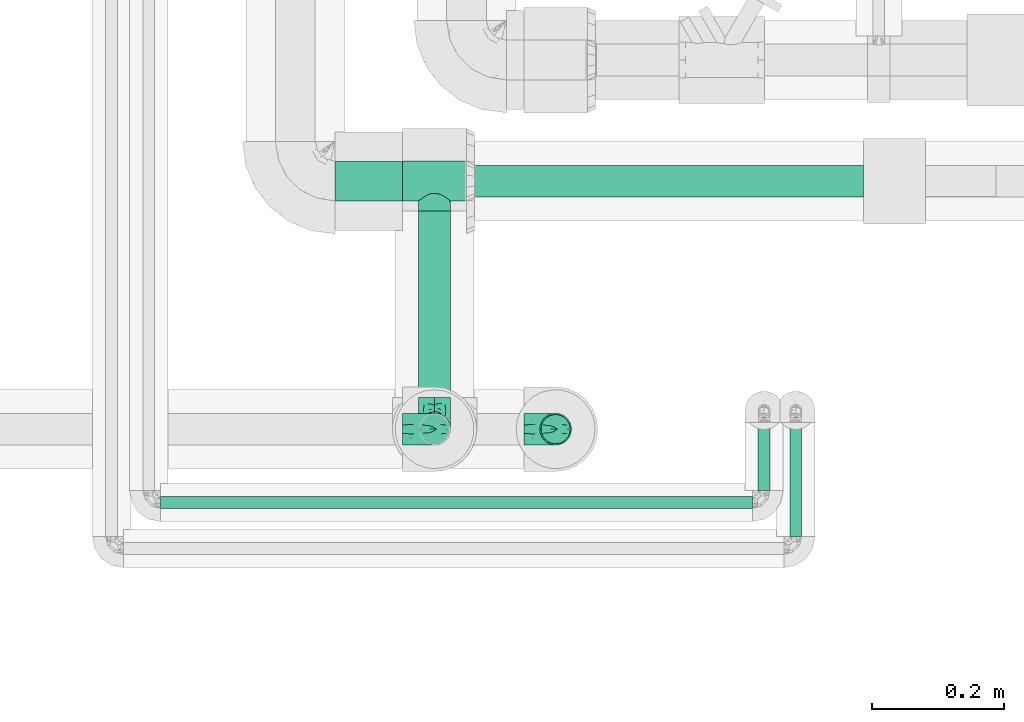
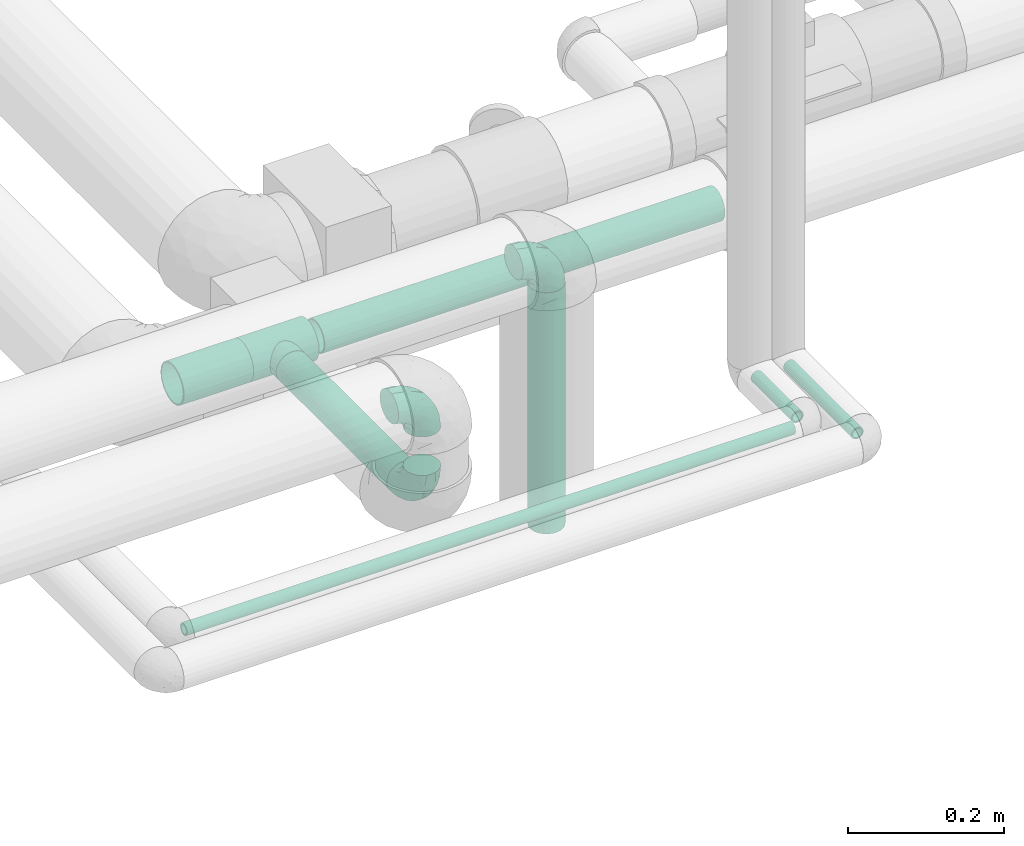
# One storey, part 37 of 83: 7 flow segments, 4 flow fittings.
"""IFC2X3 building model written with IfcOpenShell, lengths in millimetres."""

import ifcopenshell
import ifcopenshell.guid

model = None  # the IFC model being written
_history = None  # IfcOwnerHistory: only IFC2X3 demands one
_inside = {}  # id of a spatial element -> (the spatial element, [elements in it])
_under = {}  # id of a project, library or spatial element -> (it, [spatial elements below it])
_declared = {}  # id of a project -> (the project, [libraries it declares])
_typed = {}  # id of a type object -> (the type object, [elements of that type])
_made_of = {}  # id of a material, layer set ... -> (it, [elements and type objects made of it])


def new_model(schema):
    """Start an empty IFC model of exactly this schema.

    Asked for "IFC4X3", IfcOpenShell would pick the latest addendum, in which some entities
    have other attributes; the version numbers below select the first issue.
    IFC2X3 requires an IfcOwnerHistory on every rooted entity: one is made here for all.
    """
    global model, _history
    if schema == "IFC4X3":
        model = ifcopenshell.file(schema_version=(4, 3, 0, 0))
    else:
        model = ifcopenshell.file(schema=schema)
    _inside.clear()
    _under.clear()
    _declared.clear()
    _typed.clear()
    _made_of.clear()
    _history = None
    if model.schema == "IFC2X3":
        org = make("IfcOrganization", Name="unknown")
        user = make(
            "IfcPersonAndOrganization",
            ThePerson=make("IfcPerson", FamilyName="unknown"),
            TheOrganization=org,
        )
        app = make(
            "IfcApplication",
            ApplicationDeveloper=org,
            Version="unknown",
            ApplicationFullName="unknown",
            ApplicationIdentifier="unknown",
        )
        _history = make(
            "IfcOwnerHistory",
            OwningUser=user,
            OwningApplication=app,
            ChangeAction="ADDED",
            CreationDate=0,
        )
    return model


def make(cls, **values):
    """One entity of the class cls with the attributes given. An attribute that is None is left unset."""
    return model.create_entity(
        cls, **{name: value for name, value in values.items() if value is not None}
    )


def entity(cls, *values):
    """Any entity or typed value of the class cls, its attributes in the order of the schema. None: left unset."""
    e = model.create_entity(cls)
    for i, value in enumerate(values):
        if value is not None:
            e[i] = value
    return e


def rooted(cls, **values):
    """An entity with a GlobalId (a new one), such as an element, a storey or a relation."""
    return make(cls, GlobalId=ifcopenshell.guid.new(), OwnerHistory=_history, **values)


def si_unit(unit_type, name, prefix=None):
    """IfcSIUnit, for example si_unit("LENGTHUNIT", "METRE", prefix="MILLI")."""
    return make("IfcSIUnit", UnitType=unit_type, Prefix=prefix, Name=name)


def converted_unit(unit_type, name, factor, base, dimensions=None, offset=None):
    """IfcConversionBasedUnit, such as the inch: factor (a typed value) times the base unit."""
    return make(
        "IfcConversionBasedUnit"
        if offset is None
        else "IfcConversionBasedUnitWithOffset",
        ConversionOffset=offset,
        Dimensions=None
        if dimensions is None
        else entity("IfcDimensionalExponents", *dimensions),
        UnitType=unit_type,
        Name=name,
        ConversionFactor=make(
            "IfcMeasureWithUnit", ValueComponent=factor, UnitComponent=base
        ),
    )


def derived_unit(unit_type, elements):
    """IfcDerivedUnit: a product of units, each with its exponent."""
    return make(
        "IfcDerivedUnit",
        Elements=[
            make("IfcDerivedUnitElement", Unit=unit, Exponent=power)
            for unit, power in elements
        ],
        UnitType=unit_type,
    )


def assignment(units):
    """IfcUnitAssignment: the units of a project."""
    return None if units is None else make("IfcUnitAssignment", Units=units)


def point(xyz):
    """IfcCartesianPoint."""
    return None if xyz is None else make("IfcCartesianPoint", Coordinates=xyz)


def direction(xyz):
    """IfcDirection."""
    return None if xyz is None else make("IfcDirection", DirectionRatios=xyz)


def frame(location, z_axis=None, x_axis=None):
    """IfcAxis2Placement3D, a coordinate frame: its origin and axes. An axis left out is left unset."""
    return make(
        "IfcAxis2Placement3D",
        Location=point(location),
        Axis=direction(z_axis),
        RefDirection=direction(x_axis),
    )


def frame_2d(location, x_axis=None):
    """IfcAxis2Placement2D, a coordinate frame in the plane: its origin and x axis."""
    return make(
        "IfcAxis2Placement2D", Location=point(location), RefDirection=direction(x_axis)
    )


def origin_with_axes():
    """The frame at (0, 0, 0) with the z axis (0, 0, 1) and the x axis (1, 0, 0) written out."""
    return frame((0.0, 0.0, 0.0), z_axis=(0.0, 0.0, 1.0), x_axis=(1.0, 0.0, 0.0))


def origin_2d_with_axis():
    """The frame at (0, 0) in the plane with the x axis (1, 0) written out."""
    return frame_2d((0.0, 0.0), x_axis=(1.0, 0.0))


def place(relative_to, where):
    """IfcLocalPlacement: puts the frame where relative to a parent placement (None: the world)."""
    return make(
        "IfcLocalPlacement", PlacementRelTo=relative_to, RelativePlacement=where
    )


def context(
    kind, dimensions, precision=None, world=None, true_north=None, identifier=None
):
    """IfcGeometricRepresentationContext, for example the 3D "Model" context."""
    return make(
        "IfcGeometricRepresentationContext",
        ContextIdentifier=identifier,
        ContextType=kind,
        CoordinateSpaceDimension=dimensions,
        Precision=precision,
        WorldCoordinateSystem=world,
        TrueNorth=true_north,
    )


def subcontext(parent, identifier, kind, view, scale=None):
    """IfcGeometricRepresentationSubContext, for example "Body" below "Model"."""
    return make(
        "IfcGeometricRepresentationSubContext",
        ContextIdentifier=identifier,
        ContextType=kind,
        ParentContext=parent,
        TargetScale=scale,
        TargetView=view,
    )


def project(units=None, contexts=None):
    """IfcProject with its units and contexts."""
    return rooted(
        "IfcProject",
        Name="project",
        RepresentationContexts=contexts,
        UnitsInContext=assignment(units),
    )


def spatial(cls, under=None, at=None, **own):
    """A site, building, storey or space (cls), placed at a placement, below another one or the project."""
    s = rooted(cls, ObjectPlacement=at, **own)
    if under is not None:
        _under.setdefault(under.id(), (under, []))[1].append(s)
    return s


def profile(cls, at=None, kind="AREA", **sizes):
    """A parametric profile (cls). Its sizes go by their IFC names, for example OverallWidth=200.0."""
    return make(cls, ProfileType=kind, Position=at, **sizes)


def hollow_circle(**sizes):
    """IfcCircleHollowProfileDef."""
    return profile("IfcCircleHollowProfileDef", **sizes)


def extrude(swept, where, along, depth):
    """IfcExtrudedAreaSolid: the profile swept, set in the frame where, extruded along a direction by depth."""
    return make(
        "IfcExtrudedAreaSolid",
        SweptArea=swept,
        Position=where,
        ExtrudedDirection=direction(along),
        Depth=depth,
    )


def faces_of(points, faces, orient=None, outer=None):
    """IfcFace entities. A face is a list of loops; a loop is a list of indices into points, from 0.

    orient and outer hold one flag for each loop. By default every Orientation is true, the
    first loop of a face is its IfcFaceOuterBound and the others are IfcFaceBound.
    """
    made = []
    for i, loops in enumerate(faces):
        bounds = []
        for j, loop in enumerate(loops):
            is_outer = j == 0 if outer is None else outer[i][j]
            bounds.append(
                make(
                    "IfcFaceOuterBound" if is_outer else "IfcFaceBound",
                    Bound=make("IfcPolyLoop", Polygon=[points[k] for k in loop]),
                    Orientation=True if orient is None else orient[i][j],
                )
            )
        made.append(make("IfcFace", Bounds=bounds))
    return made


def open_shell(faces, orient=None, outer=None):
    """The faces of one IfcOpenShell. surface_model builds it on its shared points."""
    return ("IfcOpenShell", faces, orient, outer)


def surface_model(cls, points, shells):
    """IfcFaceBasedSurfaceModel or IfcShellBasedSurfaceModel (cls): surfaces that need not close."""
    shared = [point(p) for p in points]
    made = [make(c, CfsFaces=faces_of(shared, fs, o, b)) for c, fs, o, b in shells]
    if cls == "IfcFaceBasedSurfaceModel":
        return make(cls, FbsmFaces=made)
    return make(cls, SbsmBoundary=made)


def shape(context_of_items, identifier, shape_type, items):
    """IfcShapeRepresentation: the items that make up one representation, for example the "Body"."""
    return make(
        "IfcShapeRepresentation",
        ContextOfItems=context_of_items,
        RepresentationIdentifier=identifier,
        RepresentationType=shape_type,
        Items=items,
    )


def source(mapping_origin, context_of_items, identifier, shape_type, items):
    """IfcRepresentationMap: a shape defined once, which mapped items show again and again."""
    return make(
        "IfcRepresentationMap",
        MappingOrigin=mapping_origin,
        MappedRepresentation=shape(context_of_items, identifier, shape_type, items),
    )


def transform(
    local_origin,
    x_axis=None,
    y_axis=None,
    z_axis=None,
    scale=None,
    scale2=None,
    scale3=None,
    uniform=True,
):
    """IfcCartesianTransformationOperator3D, or its non-uniform kind. x_axis, y_axis, z_axis: its Axis1, 2, 3."""
    if uniform:
        return make(
            "IfcCartesianTransformationOperator3D",
            Axis1=direction(x_axis),
            Axis2=direction(y_axis),
            LocalOrigin=point(local_origin),
            Scale=scale,
            Axis3=direction(z_axis),
        )
    return make(
        "IfcCartesianTransformationOperator3DnonUniform",
        Axis1=direction(x_axis),
        Axis2=direction(y_axis),
        LocalOrigin=point(local_origin),
        Scale=scale,
        Axis3=direction(z_axis),
        Scale2=scale2,
        Scale3=scale3,
    )


def mapped(mapping_source, mapping_target):
    """IfcMappedItem: shows the shape of a source again, moved by a transform."""
    return make(
        "IfcMappedItem", MappingSource=mapping_source, MappingTarget=mapping_target
    )


def made_of(thing, what):
    """Note that an element or type object is made of a material, layer set ...; save() writes the relation."""
    if what is not None:
        _made_of.setdefault(what.id(), (what, []))[1].append(thing)
    return thing


def type_object(cls, material=None, **own):
    """A type object (cls), such as IfcWallType, which elements share."""
    return made_of(rooted(cls, **own), material)


def element(
    cls,
    number,
    at=None,
    inside=None,
    cuts=None,
    type_object=None,
    material=None,
    context=None,
    identifier="Body",
    shape_type=None,
    held_by="IfcProductDefinitionShape",
    body=None,
    shapes=None,
    **own,
):
    """One element of the class cls, such as IfcWall. Its Tag is "e" and its number.

    at: its placement. inside: the storey or other place that contains it. cuts: it is an
    opening in that element (IfcRelVoidsElement). A single representation is given by context,
    identifier, shape_type and body (its items); several are given by shapes. held_by: the class
    of the entity that holds the representations. save() writes the other relations.
    """
    e = rooted(cls, Tag="e%d" % number, ObjectPlacement=at, **own)
    if body is not None:
        shapes = [shape(context, identifier, shape_type, body)]
    if shapes is not None:
        e.Representation = make(held_by, Representations=shapes)
    if inside is not None:
        _inside.setdefault(inside.id(), (inside, []))[1].append(e)
    if cuts is not None:
        rooted(
            "IfcRelVoidsElement", RelatingBuildingElement=cuts, RelatedOpeningElement=e
        )
    if type_object is not None:
        _typed.setdefault(type_object.id(), (type_object, []))[1].append(e)
    return made_of(e, material)


def aggregate(whole, parts):
    """IfcRelAggregates: a whole, such as a stair, and the parts it consists of."""
    return rooted("IfcRelAggregates", RelatingObject=whole, RelatedObjects=parts)


def save(model, path):
    """Write the relations noted so far, then the file.

    IfcRelAggregates (storeys below a building ...), IfcRelContainedInSpatialStructure (elements
    in a storey), IfcRelDefinesByType, IfcRelAssociatesMaterial and IfcRelDeclares: one each for
    every whole, place, type object, material and project.
    """
    for whole, parts in _under.values():
        aggregate(whole, parts)
    for where, things in _inside.values():
        rooted(
            "IfcRelContainedInSpatialStructure",
            RelatedElements=things,
            RelatingStructure=where,
        )
    for kind, things in _typed.values():
        rooted("IfcRelDefinesByType", RelatedObjects=things, RelatingType=kind)
    for what, things in _made_of.values():
        rooted("IfcRelAssociatesMaterial", RelatedObjects=things, RelatingMaterial=what)
    for by, libraries in _declared.values():
        rooted("IfcRelDeclares", RelatingContext=by, RelatedDefinitions=libraries)
    model.write(path)


model = new_model("IFC2X3")

# Units and contexts
model_context = context("Model", 3, precision=0.01, world=frame((0.0, 4.29681676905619e-09, 0.0)), true_north=direction((4.01073788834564e-13, 1.0)))
plan_context = context("Plan", 3, precision=0.01, world=frame((0.0, 4.29681676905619e-09, 0.0)), true_north=direction((4.01073788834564e-13, 1.0)))
body_context = subcontext(model_context, "Body", "Model", "MODEL_VIEW")
ifc_project = project(units=[converted_unit("PLANEANGLEUNIT", "DEGREE", entity("IfcPositiveLengthMeasure", 0.0174532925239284), si_unit("PLANEANGLEUNIT", "RADIAN"), dimensions=[0, 0, 0, 0, 0, 0, 0]), si_unit("AREAUNIT", "SQUARE_METRE"), si_unit("LENGTHUNIT", "METRE", prefix="MILLI"), si_unit("MASSUNIT", "GRAM", prefix="KILO"), si_unit("POWERUNIT", "WATT"), si_unit("PRESSUREUNIT", "PASCAL"), si_unit("FORCEUNIT", "NEWTON", prefix="KILO"), si_unit("ELECTRICVOLTAGEUNIT", "VOLT"), si_unit("ELECTRICCURRENTUNIT", "AMPERE"), si_unit("THERMODYNAMICTEMPERATUREUNIT", "DEGREE_CELSIUS"), si_unit("TIMEUNIT", "SECOND"), si_unit("VOLUMEUNIT", "CUBIC_METRE"), derived_unit("LINEARVELOCITYUNIT", [(si_unit("LENGTHUNIT", "METRE"), 1), (si_unit("TIMEUNIT", "SECOND"), -1)]), derived_unit("VOLUMETRICFLOWRATEUNIT", [(si_unit("VOLUMEUNIT", "CUBIC_METRE"), 1), (si_unit("TIMEUNIT", "SECOND"), -1)]), derived_unit("THERMALTRANSMITTANCEUNIT", [(si_unit("POWERUNIT", "WATT"), 1), (si_unit("THERMODYNAMICTEMPERATUREUNIT", "KELVIN"), -1), (si_unit("AREAUNIT", "SQUARE_METRE"), -1)]), derived_unit("SOUNDPRESSUREUNIT", [(si_unit("PRESSUREUNIT", "PASCAL"), 1)])], contexts=[model_context, plan_context])

# Site, building, storey
site_placement = place(None, frame((0.0, -4.29681676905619e-09, 0.0), z_axis=(0.0, 0.0, 1.0), x_axis=(1.0, 0.0, 0.0)))
site = spatial("IfcSite", under=ifc_project, at=site_placement, Name="ENGM", CompositionType="ELEMENT")
building_placement = place(site_placement, frame((0.0, 4.29681676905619e-09, 0.0), z_axis=(0.0, 0.0, 1.0), x_axis=(1.0, 0.0, 0.0)))
building = spatial("IfcBuilding", under=site, at=building_placement, Name="TI", CompositionType="ELEMENT")
storey_placement = place(building_placement, frame((0.0, 0.0, 204000.0), z_axis=(0.0, 0.0, 1.0), x_axis=(1.0, 0.0, 0.0)))
storey = spatial("IfcBuildingStorey", under=building, at=storey_placement, Name="Nivå D", CompositionType="ELEMENT", Elevation=204000.0)

# Flow fittings
pipe_fitting_type_1 = type_object("IfcPipeFittingType", Name="magi_pipe_fe_elbow_short_001", PredefinedType="BEND")
shared_shape_1 = source(origin_with_axes(), body_context, "Body", "SurfaceModel", [
    surface_model("IfcShellBasedSurfaceModel", [(-48.4, 6.26342, -23.37541), (-48.4, 0.0, -24.2), (-48.4, 17.11198, -17.11198), (-48.4, 12.1, -20.95781), (-48.4, 23.37541, -6.26342), (-48.4, 20.95781, -12.1), (-48.4, -12.1, -20.95781), (-48.4, -17.11198, -17.11198), (-48.4, -20.95781, -12.1), (-48.4, -6.26342, -23.37541), (-48.4, -23.37541, -6.26342), (-48.4, -24.2, 0.0), (-48.4, -23.37541, 6.26342), (-48.4, 23.37541, 6.26342), (-48.4, 6.26342, 23.37541), (-48.4, 20.95781, 12.1), (-48.4, 17.11198, 17.11198), (-48.4, 12.1, 20.95781), (-48.4, -12.1, 20.95781), (-48.4, -20.95781, 12.1), (-48.4, -17.11198, 17.11198), (-48.4, -6.26342, 23.37541), (-48.4, 0.0, 24.2), (-48.4, 24.2, 0.0), (-17.11198, 48.4, -17.11198), (0.0, 48.4, -24.2), (-6.26342, 48.4, -23.37541), (-12.1, 48.4, -20.95781), (-20.95781, 48.4, -12.1), (-23.37541, 48.4, -6.26342), (12.1, 48.4, -20.95781), (20.95781, 48.4, -12.1), (17.11198, 48.4, -17.11198), (6.26342, 48.4, -23.37541), (23.37541, 48.4, -6.26342), (23.37541, 48.4, 6.26342), (24.2, 48.4, 0.0), (-23.37541, 48.4, 6.26342), (-6.26342, 48.4, 23.37541), (-17.11198, 48.4, 17.11198), (-20.95781, 48.4, 12.1), (-12.1, 48.4, 20.95781), (12.1, 48.4, 20.95781), (17.11198, 48.4, 17.11198), (20.95781, 48.4, 12.1), (0.0, 48.4, 24.2), (6.26342, 48.4, 23.37541), (-24.2, 48.4, 0.0), (-35.50368, -18.80076, 13.58523), (-31.77913, -13.9618, 18.03279), (-34.50859, -21.43683, 0.0), (-21.39243, -15.41147, 12.21413), (-32.16301, -21.12203, 7.54749), (21.12203, 32.16301, 7.54749), (17.07617, 18.95745, 6.20374), (18.67365, 20.61718, 0.0), (-23.65565, 38.62451, 10.51816), (-20.21592, 37.67665, 15.89859), (-35.56981, -9.15108, 21.77256), (-36.96985, -3.20584, 23.78612), (-33.88786, 3.70953, 24.15875), (-8.84062, -10.8048, 0.0), (-18.95745, -17.07617, 6.20374), (-20.61718, -18.67365, 0.0), (-18.69715, -5.87343, 20.10488), (-24.09336, -0.21717, 23.45593), (-2.08262, -4.09091, 10.90396), (-0.40561, 0.49936, 14.45569), (-8.22634, -5.79523, 14.90978), (-37.83027, 20.17367, 15.88169), (-8.41063, 23.79825, 24.15658), (-17.92529, 17.92529, 23.61199), (-14.40991, 10.5752, 24.07534), (-41.86919, 14.6551, 19.71874), (-9.03342, 41.7434, 22.66763), (-3.31671, 36.19978, 24.14056), (-38.63654, 23.65174, 10.51655), (-38.25939, 25.77657, 5.32075), (-30.0475, 30.0475, 9.04616), (-37.30448, 9.49113, 22.86036), (-6.31688, 16.20853, 23.76192), (-12.02449, 4.43954, 22.59792), (-2.47225, 13.07459, 22.23951), (-4.32281, 4.32281, 19.78555), (13.9618, 31.77913, 18.03279), (15.41147, 21.39243, 12.21413), (18.80076, 35.50367, 13.58523), (-25.72741, 16.42033, 22.38358), (-26.59277, 10.36599, 23.76692), (3.20584, 36.96985, 23.78612), (9.15107, 35.56981, 21.77256), (5.87343, 18.69715, 20.10488), (21.43683, 34.50859, 0.0), (-23.74657, 5.93004, 24.18967), (-22.40302, 25.55556, 19.88516), (-33.3245, 16.42738, 20.3789), (-25.47357, 39.04012, 5.19167), (-30.32947, 31.74105, 4.25904), (11.04589, 19.60124, 16.55181), (-27.44219, 36.3, 0.0), (-10.46605, 32.79159, 23.04712), (-13.80953, 25.05111, 23.26361), (-17.54489, 31.27863, 20.33941), (-19.27982, 23.42922, 22.01925), (-14.78447, 40.57947, 19.81913), (-19.60124, -11.04589, 16.55181), (-25.09785, 32.07921, 13.69695), (-25.5093, 27.02629, 17.14196), (-31.08127, 26.00324, 13.49448), (0.21717, 24.09336, 23.45593), (5.51075, 8.40547, 15.32867), (-11.48597, -10.80284, 11.35932), (1.43689, -3.14326, 6.54995), (7.34882, 4.31024, 8.4514), (7.50574, 2.51208, 3.62663), (12.46453, 10.09451, 5.71609), (12.1504, 12.55391, 10.15678), (-36.3, 27.44219, 0.0), (-6.52237, -9.62364, 7.02633), (2.93595, -2.93595, 0.0), (10.8048, 8.84062, 0.0), (-19.60124, -11.04589, -16.55181), (-31.77913, -13.9618, -18.03279), (-18.69715, -5.87343, -20.10488), (-21.39243, -15.41147, -12.21413), (-37.67665, 20.21591, -15.89859), (-40.57947, 14.78447, -19.81913), (-39.04012, 25.47357, -5.19167), (-32.16301, -21.12203, -7.54749), (-30.0475, 30.0475, -9.04616), (-38.62452, 23.65565, -10.51816), (-18.95745, -17.07617, -6.20374), (-23.42922, 19.27982, -22.01926), (-25.05111, 13.80953, -23.26361), (-31.27863, 17.54489, -20.33941), (-14.6551, 41.86919, -19.71874), (-20.17367, 37.83026, -15.88169), (9.15108, 35.56981, -21.77256), (5.87343, 18.69715, -20.10488), (0.21717, 24.09336, -23.45593), (-41.7434, 9.03342, -22.66763), (-35.50368, -18.80076, -13.58523), (-35.56981, -9.15108, -21.77256), (-16.42033, 25.72741, -22.38358), (-9.49113, 37.30447, -22.86036), (-10.36599, 26.59277, -23.76692), (-36.96985, -3.20584, -23.78612), (-23.79826, 8.41063, -24.15658), (-17.92529, 17.92529, -23.61199), (-10.5752, 14.40991, -24.07534), (-36.19978, 3.31671, -24.14056), (-25.77657, 38.25939, -5.32075), (-23.65174, 38.63654, -10.51655), (-32.79159, 10.46605, -23.04712), (-31.74105, 30.32946, -4.25904), (-5.93004, 23.74657, -24.18967), (-25.55556, 22.40302, -19.88516), (-16.42738, 33.3245, -20.3789), (3.20584, 36.96985, -23.78612), (-3.70953, 33.88785, -24.15875), (18.80076, 35.50367, -13.58523), (13.9618, 31.77913, -18.03279), (7.50574, 2.51208, -3.62663), (12.46453, 10.09451, -5.71609), (-16.20853, 6.31688, -23.76192), (-4.43954, 12.02449, -22.59792), (-13.07459, 2.47225, -22.23951), (1.43689, -3.14326, -6.54995), (-6.52237, -9.62364, -7.02632), (-2.08262, -4.09091, -10.90396), (15.41147, 21.39243, -12.21413), (21.12203, 32.16301, -7.54749), (17.07617, 18.95745, -6.20374), (-32.07921, 25.09785, -13.69695), (11.04589, 19.60124, -16.55181), (12.1504, 12.55391, -10.15678), (5.51075, 8.40547, -15.32867), (-27.02629, 25.5093, -17.14196), (-26.00324, 31.08127, -13.49448), (-24.09336, -0.21717, -23.45593), (-4.32281, 4.32281, -19.78555), (-8.22634, -5.79524, -14.90978), (-11.48597, -10.80284, -11.35931), (-0.40561, 0.49936, -14.45569), (7.34882, 4.31024, -8.4514)], [open_shell([[[0, 1, 2]], [[3, 0, 2]], [[4, 5, 2]], [[6, 2, 1]], [[4, 2, 6]], [[7, 8, 6]], [[1, 9, 6]], [[8, 10, 6]], [[6, 10, 4]], [[11, 12, 10]], [[13, 4, 10]], [[14, 13, 10]], [[15, 13, 16]], [[13, 14, 17]], [[16, 13, 17]], [[10, 18, 14]], [[19, 20, 12]], [[20, 10, 12]], [[21, 22, 18]], [[20, 18, 10]], [[18, 22, 14]], [[23, 4, 13]], [[24, 25, 26]], [[24, 26, 27]], [[24, 28, 29]], [[25, 24, 30]], [[30, 24, 29]], [[30, 31, 32]], [[30, 33, 25]], [[30, 34, 31]], [[29, 34, 30]], [[34, 35, 36]], [[34, 29, 37]], [[34, 37, 38]], [[39, 37, 40]], [[41, 38, 37]], [[41, 37, 39]], [[38, 42, 34]], [[35, 43, 44]], [[35, 34, 43]], [[42, 45, 46]], [[34, 42, 43]], [[38, 45, 42]], [[37, 29, 47]], [[20, 48, 49]], [[12, 11, 50]], [[51, 48, 52]], [[53, 54, 55]], [[48, 20, 19]], [[12, 52, 19]], [[40, 56, 57]], [[49, 18, 20]], [[49, 58, 18]], [[22, 59, 60]], [[61, 62, 63]], [[58, 64, 65]], [[66, 67, 68]], [[15, 16, 69]], [[70, 71, 72]], [[17, 73, 16]], [[21, 59, 22]], [[38, 74, 75]], [[22, 60, 14]], [[15, 69, 76]], [[16, 73, 69]], [[23, 13, 77]], [[13, 15, 76]], [[77, 76, 78]], [[14, 79, 17]], [[80, 81, 82]], [[68, 83, 64]], [[84, 43, 42]], [[85, 86, 84]], [[87, 79, 88]], [[18, 58, 21]], [[45, 89, 46]], [[53, 35, 44]], [[45, 38, 75]], [[84, 90, 91]], [[44, 86, 53]], [[92, 35, 53]], [[86, 44, 43]], [[90, 42, 46]], [[53, 55, 92]], [[88, 93, 72]], [[54, 53, 85]], [[87, 94, 95]], [[78, 96, 97]], [[98, 84, 91]], [[99, 96, 47]], [[79, 14, 60]], [[96, 78, 56]], [[62, 52, 63]], [[57, 39, 40]], [[100, 70, 75]], [[101, 102, 103]], [[12, 50, 52]], [[104, 41, 39]], [[74, 38, 41]], [[57, 102, 104]], [[105, 64, 49]], [[90, 84, 42]], [[40, 37, 56]], [[56, 106, 57]], [[102, 57, 107]], [[95, 107, 69]], [[76, 108, 78]], [[100, 101, 70]], [[89, 75, 109]], [[64, 58, 49]], [[63, 52, 50]], [[59, 58, 65]], [[105, 49, 51]], [[64, 83, 81]], [[89, 90, 46]], [[36, 35, 92]], [[109, 82, 91]], [[109, 91, 90]], [[91, 83, 110]], [[111, 68, 105]], [[66, 68, 111]], [[62, 51, 52]], [[66, 112, 113]], [[114, 115, 113]], [[98, 85, 84]], [[52, 48, 19]], [[49, 48, 51]], [[84, 86, 43]], [[53, 86, 85]], [[88, 79, 60]], [[73, 79, 95]], [[96, 56, 37]], [[78, 108, 106]], [[87, 103, 94]], [[100, 74, 104]], [[108, 69, 107]], [[78, 97, 77]], [[88, 72, 71]], [[109, 75, 70]], [[81, 72, 65]], [[70, 72, 80]], [[75, 89, 45]], [[90, 89, 109]], [[58, 59, 21]], [[60, 59, 65]], [[67, 83, 68]], [[110, 113, 116]], [[88, 60, 93]], [[87, 88, 71]], [[103, 87, 71]], [[79, 87, 95]], [[101, 103, 71]], [[94, 103, 102]], [[47, 96, 37]], [[96, 99, 97]], [[99, 117, 97]], [[97, 117, 77]], [[23, 77, 117]], [[13, 76, 77]], [[60, 65, 93]], [[65, 72, 93]], [[70, 101, 71]], [[102, 101, 100]], [[69, 108, 76]], [[106, 108, 107]], [[57, 106, 107]], [[78, 106, 56]], [[57, 104, 39]], [[100, 104, 102]], [[102, 107, 94]], [[95, 94, 107]], [[64, 81, 65]], [[82, 81, 83]], [[91, 82, 83]], [[80, 82, 109]], [[70, 80, 109]], [[81, 80, 72]], [[79, 73, 17]], [[69, 73, 95]], [[104, 74, 41]], [[75, 74, 100]], [[62, 61, 118]], [[111, 62, 118]], [[113, 115, 116]], [[119, 118, 61]], [[111, 105, 51]], [[113, 112, 114]], [[120, 55, 54]], [[68, 64, 105]], [[91, 110, 98]], [[116, 98, 110]], [[62, 111, 51]], [[66, 111, 118]], [[112, 66, 118]], [[67, 113, 110]], [[118, 119, 112]], [[114, 112, 119]], [[119, 120, 114]], [[115, 120, 54]], [[120, 115, 114]], [[116, 54, 85]], [[54, 116, 115]], [[116, 85, 98]], [[113, 67, 66]], [[83, 67, 110]], [[121, 122, 123]], [[122, 121, 124]], [[5, 125, 2]], [[2, 126, 3]], [[117, 127, 23]], [[50, 10, 128]], [[127, 129, 130]], [[128, 131, 63]], [[132, 133, 134]], [[24, 135, 136]], [[137, 138, 139]], [[3, 140, 0]], [[128, 8, 141]], [[142, 6, 9]], [[128, 63, 50]], [[5, 4, 130]], [[8, 7, 141]], [[143, 144, 145]], [[146, 9, 1]], [[147, 148, 149]], [[8, 128, 10]], [[124, 141, 122]], [[150, 1, 0]], [[151, 152, 129]], [[125, 134, 126]], [[153, 147, 150]], [[127, 154, 129]], [[145, 155, 149]], [[47, 29, 151]], [[143, 156, 157]], [[152, 29, 28]], [[25, 158, 159]], [[122, 7, 6]], [[24, 27, 135]], [[144, 27, 26]], [[32, 160, 161]], [[25, 33, 158]], [[120, 162, 163]], [[130, 125, 5]], [[24, 136, 28]], [[0, 140, 150]], [[30, 161, 137]], [[142, 122, 6]], [[25, 159, 26]], [[164, 165, 166]], [[167, 168, 169]], [[31, 160, 32]], [[161, 30, 32]], [[170, 160, 171]], [[131, 128, 124]], [[36, 92, 34]], [[34, 92, 171]], [[172, 171, 55]], [[34, 171, 31]], [[144, 26, 159]], [[130, 173, 125]], [[174, 175, 176]], [[136, 152, 28]], [[30, 137, 33]], [[122, 142, 123]], [[134, 125, 177]], [[157, 177, 136]], [[152, 178, 129]], [[153, 133, 147]], [[146, 150, 179]], [[146, 142, 9]], [[11, 10, 50]], [[179, 166, 123]], [[179, 123, 142]], [[123, 180, 181]], [[138, 137, 161]], [[55, 171, 92]], [[158, 137, 139]], [[174, 161, 170]], [[138, 180, 165]], [[180, 138, 176]], [[124, 121, 182]], [[176, 183, 180]], [[61, 131, 168]], [[169, 168, 182]], [[172, 170, 171]], [[122, 141, 7]], [[128, 141, 124]], [[171, 160, 31]], [[161, 160, 170]], [[145, 144, 159]], [[135, 144, 157]], [[127, 130, 4]], [[129, 178, 173]], [[143, 132, 156]], [[153, 140, 126]], [[178, 136, 177]], [[129, 154, 151]], [[145, 149, 148]], [[179, 150, 147]], [[165, 149, 139]], [[147, 149, 164]], [[150, 146, 1]], [[142, 146, 179]], [[137, 158, 33]], [[159, 158, 139]], [[174, 138, 161]], [[184, 169, 183]], [[145, 159, 155]], [[143, 145, 148]], [[132, 143, 148]], [[144, 143, 157]], [[133, 132, 148]], [[156, 132, 134]], [[23, 127, 4]], [[127, 117, 154]], [[117, 99, 154]], [[154, 99, 151]], [[47, 151, 99]], [[29, 152, 151]], [[159, 139, 155]], [[139, 149, 155]], [[147, 133, 148]], [[134, 133, 153]], [[136, 178, 152]], [[173, 178, 177]], [[125, 173, 177]], [[129, 173, 130]], [[125, 126, 2]], [[153, 126, 134]], [[134, 177, 156]], [[157, 156, 177]], [[138, 165, 139]], [[166, 165, 180]], [[123, 166, 180]], [[164, 166, 179]], [[147, 164, 179]], [[165, 164, 149]], [[144, 135, 27]], [[136, 135, 157]], [[126, 140, 3]], [[150, 140, 153]], [[182, 131, 124]], [[168, 119, 61]], [[119, 167, 162]], [[63, 131, 61]], [[172, 163, 175]], [[172, 55, 120]], [[123, 181, 121]], [[182, 121, 181]], [[175, 174, 170]], [[176, 138, 174]], [[169, 182, 181]], [[131, 182, 168]], [[183, 169, 181]], [[167, 169, 184]], [[162, 167, 184]], [[119, 168, 167]], [[163, 162, 184]], [[120, 119, 162]], [[175, 163, 184]], [[120, 163, 172]], [[176, 175, 184]], [[172, 175, 170]], [[180, 183, 181]], [[184, 183, 176]]])]),
])
for number, where, z_axis, x_axis, name in (
    (1, (608568.77351, 697531.0, 5915.24411), (-1.0, 0.0, 0.0), (0.0, -1.0, 0.0), "magi_pipe_fe_elbow_short_001"),
    (2, (608568.77351, 697531.0, 6072.06187000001), (0.0, -1.0, 0.0), (0.0, 0.0, 1.0), "magi_pipe_fe_elbow_short_001"),
    (3, (608752.77351, 697531.0, 6233.10000000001), (0.0, -1.0, 0.0), (0.0, 0.0, 1.0), "magi_pipe_fe_elbow_short_001"),
):
    element("IfcFlowFitting", number, at=place(storey_placement, frame(where, z_axis=z_axis, x_axis=x_axis)), inside=storey, type_object=pipe_fitting_type_1, Name=name, context=body_context, shape_type="MappedRepresentation", body=[
        mapped(shared_shape_1, transform((0.0, 0.0, 0.0), scale=1.0)),
    ])
pipe_fitting_type_2 = type_object("IfcPipeFittingType", Name="magi_pipe_fe_tee_centric_90_NOR", PredefinedType="JUNCTION")
shared_shape_2 = source(origin_with_axes(), body_context, "Body", "SurfaceModel", [
    surface_model("IfcShellBasedSurfaceModel", [(-48.4, 15.1, -26.15397), (-48.4, 7.81634, -29.17096), (-48.4, 0.0, -30.2), (-48.4, 29.17096, -7.81634), (-48.4, 26.15397, -15.1), (-48.4, 21.35462, -21.35462), (-48.4, 30.2, 0.0), (-48.4, -30.2, 0.0), (-48.4, -15.1, -26.15397), (-48.4, -21.35462, -21.35462), (-48.4, -7.81634, -29.17096), (-48.4, -26.15397, -15.1), (-48.4, -29.17096, -7.81634), (-48.4, 26.15397, 15.1), (-48.4, 29.17096, 7.81634), (-48.4, 15.1, 26.15397), (-48.4, -21.35462, 21.35462), (-48.4, 21.35462, 21.35462), (-48.4, 7.81634, 29.17096), (-48.4, -29.17096, 7.81634), (-48.4, -26.15397, 15.1), (-48.4, -15.1, 26.15397), (-48.4, -7.81634, 29.17096), (-48.4, 0.0, 30.2), (48.4, 0.0, -30.2), (48.4, 7.81634, -29.17096), (48.4, 15.1, -26.15397), (48.4, 21.35462, -21.35462), (48.4, -7.81634, -29.17096), (48.4, 26.15397, -15.1), (48.4, 29.17096, -7.81634), (48.4, -21.35462, -21.35462), (48.4, -15.1, -26.15397), (48.4, -29.17096, -7.81634), (48.4, -26.15397, -15.1), (48.4, -30.2, 0.0), (48.4, 30.2, 0.0), (48.4, 29.17096, 7.81634), (48.4, 26.15397, 15.1), (48.4, -29.17096, 7.81634), (48.4, 15.1, 26.15397), (48.4, 7.81634, 29.17096), (48.4, 21.35462, 21.35462), (48.4, -21.35462, 21.35462), (48.4, -26.15397, 15.1), (48.4, -15.1, 26.15397), (48.4, 0.0, 30.2), (48.4, -7.81634, 29.17096), (24.2, -30.2, 0.0), (22.60269, -28.93582, 8.64629), (18.34349, -25.74653, 15.78469), (12.2058, -21.80325, 20.89638), (4.41265, -18.59762, 23.7943), (-24.2, -30.2, 0.0), (-22.60359, -28.93652, 8.64395), (-12.20756, -21.80423, 20.89535), (-4.42042, -18.59947, 23.79285), (-18.34713, -25.74912, 15.78045), (4.41265, -18.59762, -23.7943), (18.34349, -25.74653, -15.78469), (12.2058, -21.80325, -20.89638), (22.60269, -28.93582, -8.64629), (-4.42042, -18.59947, -23.79285), (-12.20756, -21.80423, -20.89535), (-18.34713, -25.74912, -15.78045), (-22.60359, -28.93652, -8.64395), (0.0, -45.3, -24.2), (6.26342, -45.3, -23.37541), (12.1, -45.3, -20.95781), (12.1, -45.3, 20.95781), (17.11198, -45.3, -17.11198), (20.95781, -45.3, -12.1), (23.37541, -45.3, -6.26342), (-12.1, -45.3, -20.95781), (-20.95781, -45.3, -12.1), (-17.11198, -45.3, -17.11198), (-6.26342, -45.3, -23.37541), (-23.37541, -45.3, -6.26342), (-24.2, -45.3, 0.0), (24.2, -45.3, 0.0), (23.37541, -45.3, 6.26342), (20.95781, -45.3, 12.1), (-23.37541, -45.3, 6.26342), (17.11198, -45.3, 17.11198), (6.26342, -45.3, 23.37541), (-17.11198, -45.3, 17.11198), (-20.95781, -45.3, 12.1), (-12.1, -45.3, 20.95781), (0.0, -45.3, 24.2), (-6.26342, -45.3, 23.37541), (-23.40179, -29.56826, 4.32197), (-0.00389, -18.59854, 23.79357), (23.40135, -29.56791, 4.32314), (23.40135, -29.56791, -4.32314), (-0.00389, -18.59854, -23.79357), (-23.40179, -29.56826, -4.32197)], [open_shell([[[0, 1, 2]], [[3, 0, 2]], [[0, 3, 4]], [[5, 0, 4]], [[6, 2, 7]], [[8, 9, 10]], [[9, 2, 10]], [[11, 12, 9]], [[7, 9, 12]], [[9, 7, 2]], [[6, 3, 2]], [[13, 14, 6]], [[7, 15, 13]], [[7, 16, 15]], [[17, 13, 15]], [[18, 15, 16]], [[19, 20, 7]], [[7, 20, 16]], [[21, 22, 16]], [[23, 16, 22]], [[16, 23, 18]], [[7, 13, 6]], [[24, 25, 26]], [[24, 26, 27]], [[28, 27, 29]], [[27, 28, 24]], [[28, 29, 30]], [[28, 31, 32]], [[31, 28, 33]], [[31, 33, 34]], [[33, 28, 35]], [[28, 30, 35]], [[30, 36, 35]], [[36, 37, 38]], [[39, 36, 38]], [[40, 41, 38]], [[40, 38, 42]], [[43, 38, 41]], [[39, 43, 44]], [[39, 38, 43]], [[45, 46, 47]], [[46, 45, 43]], [[41, 46, 43]], [[36, 39, 35]], [[35, 39, 48]], [[49, 48, 39]], [[39, 44, 49]], [[44, 43, 50]], [[51, 50, 43]], [[52, 51, 43]], [[43, 45, 52]], [[44, 50, 49]], [[53, 54, 19]], [[19, 7, 53]], [[54, 20, 19]], [[55, 56, 16]], [[20, 57, 16]], [[57, 20, 54]], [[16, 57, 55]], [[56, 21, 16]], [[52, 21, 56]], [[23, 47, 46]], [[22, 45, 47]], [[18, 46, 41]], [[38, 37, 14]], [[17, 40, 42]], [[13, 42, 38]], [[41, 40, 15]], [[6, 37, 36]], [[21, 45, 22]], [[22, 47, 23]], [[18, 23, 46]], [[41, 15, 18]], [[15, 40, 17]], [[13, 17, 42]], [[14, 13, 38]], [[37, 6, 14]], [[45, 21, 52]], [[4, 30, 29]], [[3, 36, 30]], [[5, 29, 27]], [[24, 28, 10]], [[1, 26, 25]], [[2, 25, 24]], [[27, 26, 0]], [[8, 28, 32]], [[6, 36, 3]], [[3, 30, 4]], [[5, 4, 29]], [[27, 0, 5]], [[0, 26, 1]], [[2, 1, 25]], [[10, 2, 24]], [[28, 8, 10]], [[32, 58, 8]], [[31, 59, 60]], [[59, 31, 34]], [[60, 58, 31]], [[31, 58, 32]], [[33, 35, 48]], [[33, 61, 34]], [[61, 33, 48]], [[34, 61, 59]], [[62, 63, 9]], [[9, 64, 11]], [[64, 9, 63]], [[62, 9, 8]], [[65, 53, 12]], [[65, 12, 11]], [[12, 53, 7]], [[65, 11, 64]], [[58, 62, 8]], [[66, 67, 68]], [[69, 66, 68]], [[70, 71, 72]], [[70, 72, 68]], [[69, 73, 66]], [[73, 74, 75]], [[73, 76, 66]], [[73, 77, 74]], [[77, 73, 78]], [[73, 69, 78]], [[79, 68, 72]], [[79, 80, 81]], [[79, 81, 69]], [[69, 82, 78]], [[69, 81, 83]], [[82, 69, 84]], [[82, 85, 86]], [[82, 84, 85]], [[87, 88, 89]], [[88, 87, 85]], [[84, 88, 85]], [[69, 68, 79]], [[82, 90, 78]], [[57, 86, 85]], [[82, 86, 54]], [[85, 87, 55]], [[90, 53, 78]], [[54, 86, 57]], [[55, 89, 56]], [[55, 57, 85]], [[88, 52, 91]], [[55, 87, 89]], [[92, 79, 48]], [[92, 49, 80]], [[82, 54, 90]], [[84, 52, 88]], [[49, 81, 80]], [[81, 50, 83]], [[88, 56, 89]], [[84, 51, 52]], [[51, 84, 69]], [[69, 83, 51]], [[51, 83, 50]], [[50, 81, 49]], [[79, 92, 80]], [[91, 56, 88]], [[72, 93, 79]], [[59, 71, 70]], [[72, 71, 61]], [[70, 68, 60]], [[93, 48, 79]], [[61, 71, 59]], [[60, 67, 58]], [[60, 59, 70]], [[66, 62, 94]], [[60, 68, 67]], [[95, 78, 53]], [[95, 65, 77]], [[63, 73, 75]], [[72, 61, 93]], [[65, 74, 77]], [[75, 74, 64]], [[66, 58, 67]], [[62, 76, 63]], [[62, 66, 76]], [[76, 73, 63]], [[63, 75, 64]], [[64, 74, 65]], [[78, 95, 77]], [[94, 58, 66]]])]),
])
flow_fitting_placement = place(storey_placement, frame((608568.77351, 697908.0, 5915.24411), z_axis=(0.0, 0.0, 1.0), x_axis=(1.0, 0.0, 0.0)))
element("IfcFlowFitting", 4, at=flow_fitting_placement, inside=storey, type_object=pipe_fitting_type_2, Name="magi_pipe_fe_tee_centric_90_NOR", context=body_context, shape_type="MappedRepresentation", body=[
    mapped(shared_shape_2, transform((0.0, 0.0, 0.0), scale=1.0)),
])

# Flow segments
pipe_segment_type_1 = type_object("IfcPipeSegmentType", Name="Stålrør normaltykke", PredefinedType="RIGIDSEGMENT")
shared_shape_3 = source(origin_with_axes(), body_context, "Body", "SweptSolid", [
    extrude(hollow_circle(Radius=30.1, WallThickness=2.0, at=origin_2d_with_axis()), frame((0.0, 0.0, 0.0), z_axis=(1.0, 0.0, 0.0), x_axis=(0.0, 1.0, 0.0)), (0.0, 0.0, 1.0), 102.8),
])
flow_segment_1_placement = place(storey_placement, frame((608520.37351, 697908.0, 5915.24411), z_axis=(0.0, 0.0, 1.0), x_axis=(-1.0, 0.0, 0.0)))
element("IfcFlowSegment", 5, at=flow_segment_1_placement, inside=storey, type_object=pipe_segment_type_1, Name="Stålrør normaltykke", context=body_context, shape_type="MappedRepresentation", body=[
    mapped(shared_shape_3, transform((0.0, 0.0, 0.0), scale=1.0)),
])
shared_shape_4 = source(origin_with_axes(), body_context, "Body", "SweptSolid", [
    extrude(hollow_circle(Radius=24.1, WallThickness=2.0, at=origin_2d_with_axis()), frame((0.0, 0.0, 0.0), z_axis=(1.0, 0.0, 0.0), x_axis=(0.0, 1.0, 0.0)), (0.0, 0.0, 1.0), 591.4),
])
flow_segment_2_placement = place(storey_placement, frame((609220.57456, 697908.0, 5915.24411), z_axis=(0.0, 0.0, 1.0), x_axis=(-1.0, 0.0, 0.0)))
element("IfcFlowSegment", 6, at=flow_segment_2_placement, inside=storey, type_object=pipe_segment_type_1, Name="Stålrør normaltykke", context=body_context, shape_type="MappedRepresentation", body=[
    mapped(shared_shape_4, transform((0.0, 0.0, 0.0), scale=1.0)),
])
shared_shape_5 = source(origin_with_axes(), body_context, "Body", "SweptSolid", [
    extrude(hollow_circle(Radius=24.1, WallThickness=2.0, at=origin_2d_with_axis()), frame((0.0, 0.0, 0.0), z_axis=(1.0, 0.0, 0.0), x_axis=(0.0, 1.0, 0.0)), (0.0, 0.0, 1.0), 283.3),
])
flow_segment_3_placement = place(storey_placement, frame((608568.77351, 697862.7, 5915.24411), z_axis=(0.0, 0.0, 1.0), x_axis=(0.0, -1.0, 0.0)))
element("IfcFlowSegment", 7, at=flow_segment_3_placement, inside=storey, type_object=pipe_segment_type_1, Name="Stålrør normaltykke", context=body_context, shape_type="MappedRepresentation", body=[
    mapped(shared_shape_5, transform((0.0, 0.0, 0.0), scale=1.0)),
])
shared_shape_6 = source(origin_with_axes(), body_context, "Body", "SweptSolid", [
    extrude(hollow_circle(Radius=24.1, WallThickness=2.0, at=origin_2d_with_axis()), frame((0.0, 0.0, 0.0), z_axis=(1.0, 0.0, 0.0), x_axis=(0.0, 1.0, 0.0)), (0.0, 0.0, 1.0), 376.9),
])
flow_segment_4_placement = place(storey_placement, frame((608752.77351, 697531.0, 5807.80999000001), z_axis=(0.0, 1.0, 0.0), x_axis=(0.0, 0.0, 1.0)))
element("IfcFlowSegment", 8, at=flow_segment_4_placement, inside=storey, type_object=pipe_segment_type_1, Name="Stålrør normaltykke", context=body_context, shape_type="MappedRepresentation", body=[
    mapped(shared_shape_6, transform((0.0, 0.0, 0.0), scale=1.0)),
])
pipe_segment_type_2 = type_object("IfcPipeSegmentType", Name="Kobberrør", PredefinedType="RIGIDSEGMENT")
shared_shape_7 = source(origin_with_axes(), body_context, "Body", "SweptSolid", [
    extrude(hollow_circle(Radius=9.0, WallThickness=2.0, at=origin_2d_with_axis()), frame((0.0, 0.0, 0.0), z_axis=(1.0, 0.0, 0.0), x_axis=(0.0, 1.0, 0.0)), (0.0, 0.0, 1.0), 174.0),
])
flow_segment_5_placement = place(storey_placement, frame((609117.81817, 697367.51267, 5920.0), z_axis=(0.0, 0.0, 1.0), x_axis=(0.0, 1.0, 0.0)))
element("IfcFlowSegment", 9, at=flow_segment_5_placement, inside=storey, type_object=pipe_segment_type_2, Name="Kobberrør", context=body_context, shape_type="MappedRepresentation", body=[
    mapped(shared_shape_7, transform((0.0, 0.0, 0.0), scale=1.0)),
])
shared_shape_8 = source(origin_with_axes(), body_context, "Body", "SweptSolid", [
    extrude(hollow_circle(Radius=9.0, WallThickness=2.0, at=origin_2d_with_axis()), frame((0.0, 0.0, 0.0), z_axis=(1.0, 0.0, 0.0), x_axis=(0.0, 1.0, 0.0)), (0.0, 0.0, 1.0), 899.3),
])
flow_segment_6_placement = place(storey_placement, frame((608152.38671, 697419.51267, 5920.0), z_axis=(0.0, 0.0, 1.0), x_axis=(1.0, 0.0, 0.0)))
element("IfcFlowSegment", 10, at=flow_segment_6_placement, inside=storey, type_object=pipe_segment_type_2, Name="Kobberrør", context=body_context, shape_type="MappedRepresentation", body=[
    mapped(shared_shape_8, transform((0.0, 0.0, 0.0), scale=1.0)),
])
shared_shape_9 = source(origin_with_axes(), body_context, "Body", "SweptSolid", [
    extrude(hollow_circle(Radius=9.0, WallThickness=2.0, at=origin_2d_with_axis()), frame((0.0, 0.0, 0.0), z_axis=(1.0, 0.0, 0.0), x_axis=(0.0, 1.0, 0.0)), (0.0, 0.0, 1.0), 104.0),
])
flow_segment_7_placement = place(storey_placement, frame((609069.65402, 697437.51267, 5920.0), z_axis=(0.0, 0.0, 1.0), x_axis=(0.0, 1.0, 0.0)))
element("IfcFlowSegment", 11, at=flow_segment_7_placement, inside=storey, type_object=pipe_segment_type_2, Name="Kobberrør", context=body_context, shape_type="MappedRepresentation", body=[
    mapped(shared_shape_9, transform((0.0, 0.0, 0.0), scale=1.0, scale2=1.0, scale3=1.0, uniform=False)),
])

save(model, "model.ifc")
